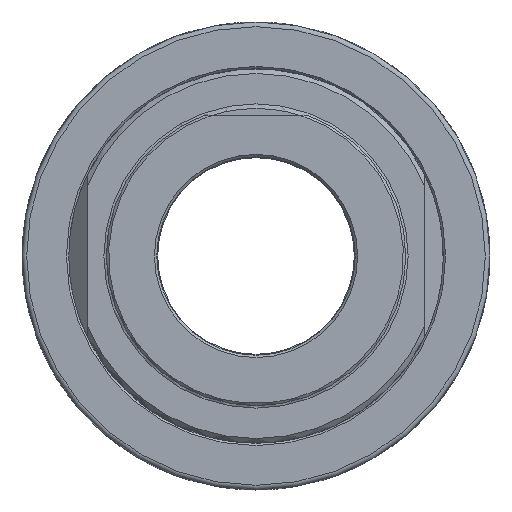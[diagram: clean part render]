
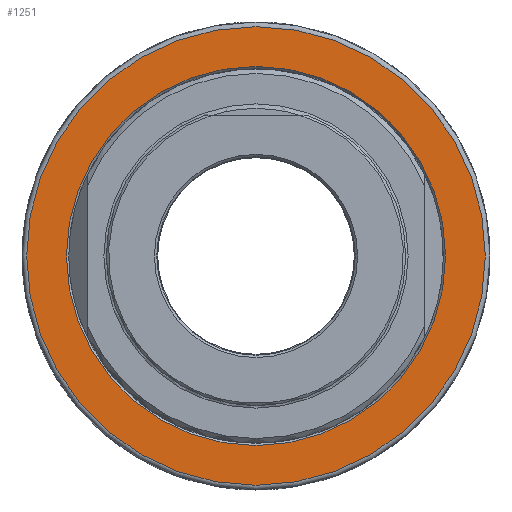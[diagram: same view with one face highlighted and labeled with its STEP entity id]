
A CAD part, left-side view. The second image highlights one B-rep face of the part: STEP entity #1251.
In plain terms, the highlighted planar face has unit normal (-1, 0, 0) as drawn and (0, -1, 0) by its records, which use the part's own axes.
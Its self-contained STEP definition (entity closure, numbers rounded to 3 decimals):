
#153=FACE_BOUND('',#325,.T.);
#187=PLANE('',#1450);
#250=FACE_OUTER_BOUND('',#324,.T.);
#324=EDGE_LOOP('',(#1142));
#325=EDGE_LOOP('',(#1143));
#530=CIRCLE('',#1449,20.25);
#531=CIRCLE('',#1451,24.5);
#647=VERTEX_POINT('',#2307);
#648=VERTEX_POINT('',#2311);
#815=EDGE_CURVE('',#647,#647,#530,.T.);
#816=EDGE_CURVE('',#648,#648,#531,.T.);
#1142=ORIENTED_EDGE('',*,*,#816,.F.);
#1143=ORIENTED_EDGE('',*,*,#815,.F.);
#1251=ADVANCED_FACE('',(#250,#153),#187,.T.);
#1449=AXIS2_PLACEMENT_3D('',#2309,#1768,#1769);
#1450=AXIS2_PLACEMENT_3D('',#2310,#1770,#1771);
#1451=AXIS2_PLACEMENT_3D('',#2312,#1772,#1773);
#1768=DIRECTION('center_axis',(0.,-1.,0.));
#1769=DIRECTION('ref_axis',(-1.,0.,0.));
#1770=DIRECTION('center_axis',(0.,-1.,0.));
#1771=DIRECTION('ref_axis',(0.,0.,-1.));
#1772=DIRECTION('center_axis',(0.,1.,0.));
#1773=DIRECTION('ref_axis',(-1.,0.,0.));
#2307=CARTESIAN_POINT('',(20.25,0.,0.));
#2309=CARTESIAN_POINT('Origin',(0.,0.,0.));
#2310=CARTESIAN_POINT('Origin',(19.25,0.,0.));
#2311=CARTESIAN_POINT('',(0.,0.,24.5));
#2312=CARTESIAN_POINT('Origin',(0.,0.,0.));
